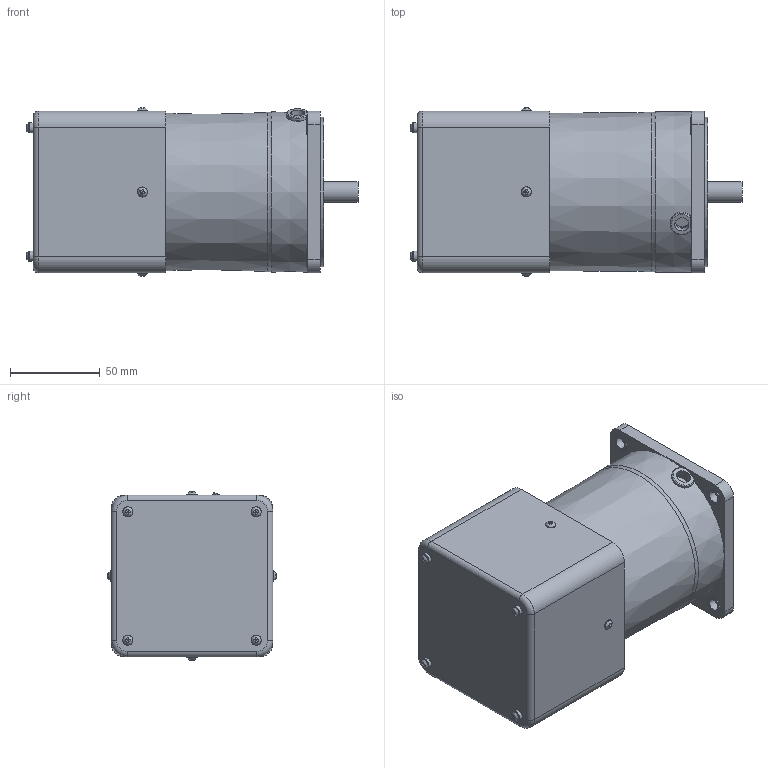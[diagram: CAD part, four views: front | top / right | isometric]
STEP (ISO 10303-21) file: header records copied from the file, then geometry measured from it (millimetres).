
FILE_DESCRIPTION((''),'2;1');
FILE_NAME('D:\STP파일\60W MOTOR\SPEED CONTROL TYPE\S9I60G-S.stp','2013-05-20T18:09:03',('leebh'),(''),'Autodesk Inventor 2011','Autodesk Inventor 2011','');
FILE_SCHEMA(('AUTOMOTIVE_DESIGN { 1 0 10303 214 1 1 1 1 }'));
Length unit declared in the file: millimetre
Products named in the file (1): 부품1
Bounding box: 184.75 x 93.89 x 93.89 mm (x, y, z)
Volume: 872974.1 mm3; surface area: 100580.1 mm2
Topology: 1 solids, 7 shells, 282 faces, 675 edges, 435 vertices
Faces by surface type: plane 173, cylinder 69, torus 26, bspline 8, cone 6
Full cylindrical faces by diameter (mm): 3 x8, 4.5 x4, 5.6 x12, 6.5 x4, 8 x1, 9.5 x4, 10 x1, 11.5 x1, 40 x1, 83 x1
Entity records: 8543 total; most frequent: CARTESIAN_POINT 2203, DIRECTION 1216, ORIENTED_EDGE 1186, EDGE_CURVE 593, AXIS2_PLACEMENT_3D 449, VERTEX_POINT 422, EDGE_LOOP 397, VECTOR 318
